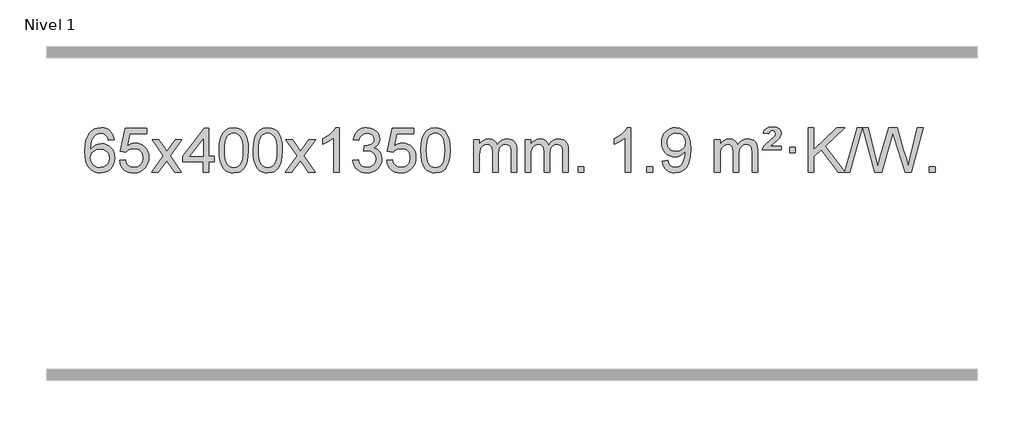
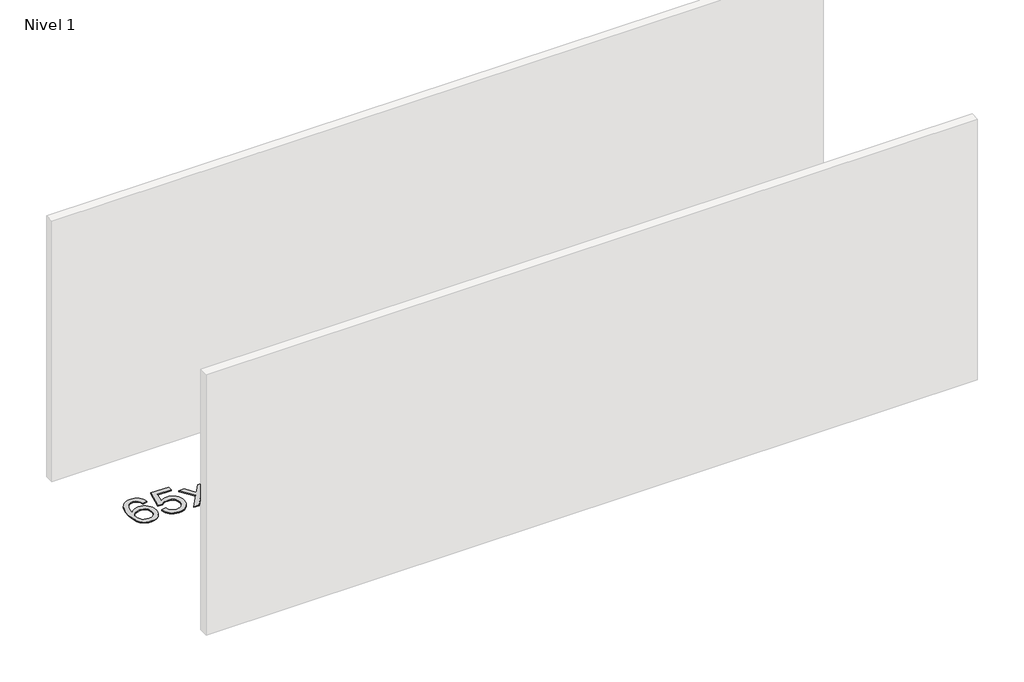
# One storey, part 2 of 10: 1 proxy.
"""IFC4 building model written with IfcOpenShell, lengths in millimetres."""

from ifc_helpers import new_model, si_unit, origin, origin_with_axes, place, context, project, spatial, polyline, outline, extrude, element, save

model = new_model("IFC4")

# Units and contexts
model_context = context("Model", 3, world=origin())
ifc_project = project(units=[si_unit("LENGTHUNIT", "METRE", prefix="MILLI")], contexts=[model_context])

# Site, building, storey
site = spatial("IfcSite", under=ifc_project)
building = spatial("IfcBuilding", under=site)
storey = spatial("IfcBuildingStorey", under=building, Name="Nivel 1", Elevation=0.0)

# Proxy
placement = place(None, origin())
element("IfcBuildingElementProxy", 1, Name="Texto de modelo 1", ObjectType="Texto de modelo 1", at=placement, inside=storey, context=model_context, shape_type="SweptSolid", body=[
    extrude(outline(polyline([(-24968.7310862, 8918.5483619), (-25018.9592412, 8912.2698426), (-25027.0526451, 8937.1631909), (-25037.9910031, 8954.1593391), (-25060.7751614, 8969.8311121), (-25088.3172601, 8975.0550364), (-25111.665504, 8972.0138786), (-25133.6403219, 8962.8904051), (-25152.5126682, 8943.6747022), (-25167.9269238, 8917.2239868), (-25178.3379843, 8879.8103879), (-25182.2007452, 8827.7060346), (-25162.0530746, 8851.2136941), (-25137.907753, 8867.7806466), (-25111.113681, 8877.6030959), (-25083.0197593, 8880.8772456), (-25058.8867005, 8878.6392968), (-25036.617577, 8871.9254504), (-25016.212389, 8860.7357064), (-24997.6711365, 8845.0700648), (-24982.2630122, 8825.8604933), (-24971.2572092, 8804.0389596), (-24964.6537274, 8779.6054637), (-24962.4525668, 8752.5600057), (-24966.5973706, 8716.5934093), (-24979.031782, 8683.2510378), (-24998.7257315, 8654.9731751), (-25024.6491494, 8634.2001051), (-25055.6248134, 8621.4345999), (-25090.4755011, 8617.1794315), (-25120.4180298, 8619.9998601), (-25147.4604222, 8628.461146), (-25171.6026781, 8642.5632892), (-25192.8447976, 8662.3062896), (-25210.1628426, 8688.5240131), (-25222.5328746, 8722.0503256), (-25229.9548939, 8762.8852271), (-25232.4289003, 8811.0287175), (-25229.6820481, 8865.0031376), (-25221.4414914, 8911.0680947), (-25207.7072302, 8949.223589), (-25188.4792646, 8979.4696204), (-25167.6387496, 8999.5130577), (-25143.4750339, 9013.8297987), (-25115.9881175, 9022.4198433), (-25085.1780004, 9025.2831915), (-25062.0443542, 9023.5112265), (-25041.1057374, 9018.1953317), (-25022.3621497, 9009.335507), (-25005.8135913, 8996.9317524), (-24991.9076519, 8981.4010008), (-24981.0919212, 8963.1601852), (-24973.3663993, 8942.2093056), (-24968.7310862, 8918.5483619)]), holes=[polyline([(-25182.2007452, 8753.3448206), (-25179.2944775, 8731.0879599), (-25170.5756742, 8709.8366434), (-25157.0376168, 8691.5651709), (-25139.6735866, 8678.2478427), (-25118.7165756, 8670.1176506), (-25094.3995757, 8667.4075866), (-25061.253408, 8673.0239184), (-25047.3382715, 8680.0443331), (-25035.1951, 8689.8729137), (-25025.3450595, 8702.1111215), (-25018.3093164, 8716.3604174), (-25012.6807219, 8750.892274), (-25018.23574, 8784.0384418), (-25025.1795126, 8797.6592727), (-25034.9007944, 8809.3119348), (-25047.0807541, 8818.6469405), (-25061.4005608, 8825.3148016), (-25096.4597149, 8830.6490906), (-25129.5568317, 8825.3148016), (-25157.2338205, 8809.3119348), (-25168.1568501, 8797.8125568), (-25175.9590141, 8784.6515784), (-25180.6403124, 8769.8289997), (-25182.2007452, 8753.3448206)])]), origin_with_axes(), (0.0, 0.0, 1.0), 10.0),
    extrude(outline(polyline([(-24918.5029311, 8730.1927804), (-24868.274776, 8736.4712998), (-24859.0532007, 8706.3172389), (-24842.9644948, 8684.7225658), (-24820.0822347, 8671.7363314), (-24790.4799968, 8667.4075866), (-24771.350133, 8668.9128371), (-24754.4766122, 8673.4285886), (-24739.8594342, 8680.954841), (-24727.4985992, 8691.4915945), (-24717.6700186, 8704.5176828), (-24710.6496038, 8719.5119398), (-24705.033272, 8755.4049598), (-24710.2939846, 8789.2010524), (-24716.8698752, 8803.1192546), (-24726.0761222, 8815.050894), (-24737.9433822, 8824.6219572), (-24752.5023121, 8831.458431), (-24789.6951819, 8836.92761), (-24814.0612327, 8834.7448434), (-24833.7919703, 8828.1965439), (-24849.5495825, 8818.1656282), (-24861.9962566, 8805.535013), (-24912.2244117, 8811.8135324), (-24868.274776, 9019.0046721), (-24673.6406751, 9019.0046721), (-24673.6406751, 8968.776517), (-24827.6606038, 8968.776517), (-24849.1449123, 8858.1176129), (-24831.4191315, 8870.8218044), (-24813.264155, 8879.896227), (-24794.6799829, 8885.3408805), (-24775.6666151, 8887.155765), (-24751.2055281, 8884.9055535), (-24728.7371353, 8878.1549189), (-24708.2614365, 8866.9038612), (-24689.778432, 8851.1523804), (-24674.4776066, 8831.8631012), (-24663.5484457, 8809.9986479), (-24656.9909491, 8785.5590207), (-24654.805117, 8758.5442195), (-24656.7732856, 8732.5226997), (-24662.6777917, 8708.3160644), (-24672.518635, 8685.9243137), (-24686.2958157, 8665.3474474), (-24707.1669876, 8644.2739404), (-24731.5207757, 8629.2214355), (-24759.35718, 8620.1899325), (-24790.6762005, 8617.1794315), (-24816.5965528, 8619.1138777), (-24840.0091761, 8624.9172161), (-24860.9140704, 8634.5894469), (-24879.3112359, 8648.13057), (-24894.6181926, 8664.8661351), (-24906.2524607, 8684.1216919), (-24914.2140402, 8705.8972403), (-24918.5029311, 8730.1927804)])), origin_with_axes(), (0.0, 0.0, 1.0), 10.0),
    extrude(outline(polyline([(-24629.6910394, 8623.4579509), (-24522.3675987, 8771.7879713), (-24623.41252, 8918.5483619), (-24562.981771, 8918.5483619), (-24514.2251439, 8847.9150189), (-24491.4655111, 8814.5603846), (-24471.7470362, 8841.8327032), (-24416.2213804, 8918.5483619), (-24355.7906313, 8918.5483619), (-24461.9368496, 8771.7879713), (-24359.7147059, 8623.4579509), (-24420.145455, 8623.4579509), (-24481.6553246, 8712.6325465), (-24492.9370391, 8728.9174562), (-24569.2602903, 8623.4579509), (-24629.6910394, 8623.4579509)])), origin_with_axes(), (0.0, 0.0, 1.0), 10.0),
    extrude(outline(polyline([(-24165.080605, 8623.4579509), (-24165.080605, 8717.6357417), (-24347.1576671, 8717.6357417), (-24347.1576671, 8767.8638967), (-24152.5235662, 9019.0046721), (-24114.8524499, 9019.0046721), (-24114.8524499, 8767.8638967), (-24064.6242948, 8767.8638967), (-24064.6242948, 8717.6357417), (-24114.8524499, 8717.6357417), (-24114.8524499, 8623.4579509), (-24165.080605, 8623.4579509)]), holes=[polyline([(-24165.080605, 8767.8638967), (-24165.080605, 8923.0610478), (-24285.3534919, 8767.8638967), (-24165.080605, 8767.8638967)])]), origin_with_axes(), (0.0, 0.0, 1.0), 10.0),
    extrude(outline(polyline([(-24020.6746591, 8821.1332096), (-24016.9835765, 8885.4512451), (-24005.9103284, 8936.746258), (-23987.5652796, 8975.8030631), (-23975.7072166, 8991.0364434), (-23962.0587946, 9003.4064755), (-23946.5740283, 9012.9775387), (-23929.2069324, 9019.8140125), (-23888.8257521, 9025.2831915), (-23857.8746135, 9022.0458299), (-23830.1608366, 9012.3337453), (-23806.9842709, 8996.5270822), (-23789.6447662, 8975.0059855), (-23776.5481671, 8947.9543961), (-23766.1003185, 8915.5562551), (-23759.2577134, 8874.4147853), (-23756.976845, 8821.1332096), (-23760.6311395, 8757.1830561), (-23771.5940229, 8706.0106706), (-23789.8287072, 8666.9170772), (-23801.659179, 8651.6377117), (-23815.298404, 8639.2033003), (-23830.8015644, 8629.5678577), (-23848.2238425, 8622.6853987), (-23888.8257521, 8617.1794315), (-23916.4904781, 8619.5706645), (-23941.0159444, 8626.7443634), (-23962.4021511, 8638.7005282), (-23980.6490981, 8655.439159), (-23998.160281, 8685.6974531), (-24010.6682689, 8723.3992262), (-24018.1730616, 8768.5444784), (-24020.6746591, 8821.1332096)]), holes=[polyline([(-23970.4465041, 8821.2313115), (-23968.9749761, 8777.5667843), (-23964.5603921, 8742.2225217), (-23957.2027522, 8715.1985234), (-23946.9020564, 8696.4947897), (-23934.4431195, 8683.7691383), (-23920.6107564, 8674.6793873), (-23905.4049673, 8669.2255368), (-23888.8257521, 8667.4075866), (-23872.2465368, 8669.2316681), (-23857.0407477, 8674.7039128), (-23843.2083847, 8683.8243206), (-23830.7494478, 8696.5928915), (-23820.4487519, 8715.3272821), (-23813.091112, 8742.345149), (-23808.676528, 8777.6464921), (-23807.2050001, 8821.2313115), (-23808.6274771, 8863.740076), (-23812.8949083, 8898.462005), (-23820.0072935, 8925.3970984), (-23829.9646328, 8944.5453563), (-23842.2151033, 8957.8933413), (-23856.2068818, 8967.4276164), (-23871.9399685, 8973.1481814), (-23889.4143633, 8975.0550364), (-23905.9077394, 8973.375042), (-23920.8560111, 8968.3350586), (-23934.2591785, 8959.9350864), (-23946.1172414, 8948.1751253), (-23956.7612938, 8927.3284789), (-23964.3641884, 8899.2222945), (-23968.9259251, 8863.856572), (-23970.4465041, 8821.2313115)])]), origin_with_axes(), (0.0, 0.0, 1.0), 10.0),
    extrude(outline(polyline([(-23713.0272093, 8821.1332096), (-23709.3361266, 8885.4512451), (-23698.2628786, 8936.746258), (-23679.9178297, 8975.8030631), (-23668.0597668, 8991.0364434), (-23654.4113447, 9003.4064755), (-23638.9265784, 9012.9775387), (-23621.5594826, 9019.8140125), (-23581.1783022, 9025.2831915), (-23550.2271637, 9022.0458299), (-23522.5133867, 9012.3337453), (-23499.336821, 8996.5270822), (-23481.9973163, 8975.0059855), (-23468.9007173, 8947.9543961), (-23458.4528686, 8915.5562551), (-23451.6102635, 8874.4147853), (-23449.3293952, 8821.1332096), (-23452.9836896, 8757.1830561), (-23463.9465731, 8706.0106706), (-23482.1812573, 8666.9170772), (-23494.0117292, 8651.6377117), (-23507.6509541, 8639.2033003), (-23523.1541145, 8629.5678577), (-23540.5763927, 8622.6853987), (-23581.1783022, 8617.1794315), (-23608.8430283, 8619.5706645), (-23633.3684946, 8626.7443634), (-23654.7547013, 8638.7005282), (-23673.0016482, 8655.439159), (-23690.5128312, 8685.6974531), (-23703.020819, 8723.3992262), (-23710.5256117, 8768.5444784), (-23713.0272093, 8821.1332096)]), holes=[polyline([(-23662.7990542, 8821.2313115), (-23661.3275262, 8777.5667843), (-23656.9129423, 8742.2225217), (-23649.5553024, 8715.1985234), (-23639.2546065, 8696.4947897), (-23626.7956696, 8683.7691383), (-23612.9633066, 8674.6793873), (-23597.7575175, 8669.2255368), (-23581.1783022, 8667.4075866), (-23564.599087, 8669.2316681), (-23549.3932978, 8674.7039128), (-23535.5609348, 8683.8243206), (-23523.1019979, 8696.5928915), (-23512.8013021, 8715.3272821), (-23505.4436622, 8742.345149), (-23501.0290782, 8777.6464921), (-23499.5575502, 8821.2313115), (-23500.9800273, 8863.740076), (-23505.2474584, 8898.462005), (-23512.3598437, 8925.3970984), (-23522.317183, 8944.5453563), (-23534.5676534, 8957.8933413), (-23548.559432, 8967.4276164), (-23564.2925187, 8973.1481814), (-23581.7669134, 8975.0550364), (-23598.2602895, 8973.375042), (-23613.2085613, 8968.3350586), (-23626.6117286, 8959.9350864), (-23638.4697916, 8948.1751253), (-23649.113844, 8927.3284789), (-23656.7167386, 8899.2222945), (-23661.2784753, 8863.856572), (-23662.7990542, 8821.2313115)])]), origin_with_axes(), (0.0, 0.0, 1.0), 10.0),
    extrude(outline(polyline([(-23424.2153176, 8623.4579509), (-23316.8918769, 8771.7879713), (-23417.9367982, 8918.5483619), (-23357.5060492, 8918.5483619), (-23308.7494221, 8847.9150189), (-23285.9897893, 8814.5603846), (-23266.2713144, 8841.8327032), (-23210.7456586, 8918.5483619), (-23150.3149095, 8918.5483619), (-23256.4611278, 8771.7879713), (-23154.2389841, 8623.4579509), (-23214.6697332, 8623.4579509), (-23276.1796028, 8712.6325465), (-23287.4613173, 8728.9174562), (-23363.7845685, 8623.4579509), (-23424.2153176, 8623.4579509)])), origin_with_axes(), (0.0, 0.0, 1.0), 10.0),
    extrude(outline(polyline([(-22934.4908056, 8623.4579509), (-22984.7189607, 8623.4579509), (-22984.7189607, 8936.5991052), (-23005.6882344, 8919.6397452), (-23032.2983654, 8902.7049107), (-23085.1752709, 8877.3455785), (-23085.1752709, 8924.8268813), (-23045.7260583, 8946.2866644), (-23011.5498209, 8971.8176749), (-22984.6085961, 8998.9673661), (-22966.8644212, 9025.2831915), (-22934.4908056, 9025.2831915), (-22934.4908056, 8623.4579509)])), origin_with_axes(), (0.0, 0.0, 1.0), 10.0),
    extrude(outline(polyline([(-22815.1989373, 8730.1927804), (-22764.9707823, 8736.4712998), (-22753.7258559, 8704.9070246), (-22737.2570053, 8683.5943944), (-22714.7548899, 8671.4542885), (-22685.4101694, 8667.4075866), (-22650.9764147, 8672.9748674), (-22636.7025933, 8679.9339685), (-22624.3908092, 8689.67671), (-22607.394661, 8714.5945838), (-22601.7292783, 8744.8099584), (-22607.3456101, 8773.4924913), (-22624.1946054, 8796.7548961), (-22649.7010904, 8812.1691517), (-22681.2898911, 8817.3072369), (-22716.5084608, 8811.8135324), (-22710.9166544, 8862.0416875), (-22702.8723015, 8861.4530763), (-22672.7795543, 8865.0583199), (-22645.8751177, 8875.8740505), (-22634.8018696, 8884.0532935), (-22626.8924067, 8894.1700484), (-22622.146729, 8906.2243151), (-22620.5648364, 8920.2160937), (-22625.1510986, 8941.9088686), (-22638.9098853, 8959.5058907), (-22659.9036844, 8971.16775), (-22686.1949844, 8975.0550364), (-22712.5353352, 8971.1309618), (-22734.0686947, 8959.3587379), (-22749.7895186, 8939.7383649), (-22758.6922629, 8912.2698426), (-22808.920418, 8918.5483619), (-22802.966861, 8942.5281367), (-22794.1315618, 8963.6506946), (-22782.4145202, 8981.9160356), (-22767.8157364, 8997.3241599), (-22750.7950627, 9009.5562362), (-22731.8123518, 9018.2934336), (-22710.8676035, 9023.535752), (-22687.9608179, 9025.2831915), (-22656.38428, 9021.8373635), (-22627.3829161, 9011.4998794), (-22602.9310261, 8995.1904443), (-22585.0029102, 8973.8287631), (-22574.0032386, 8949.2174576), (-22570.3366814, 8923.1591496), (-22573.8192976, 8898.8789379), (-22584.2671462, 8876.8550692), (-22601.5330745, 8858.0930874), (-22625.4699297, 8843.5985368), (-22594.0282818, 8830.8943452), (-22570.7290888, 8809.2628839), (-22556.3081146, 8779.8813752), (-22551.5011232, 8743.9270416), (-22553.9046189, 8718.445082), (-22561.115106, 8694.9742107), (-22573.1325845, 8673.5144277), (-22589.9570544, 8654.0657329), (-22610.4542129, 8637.927976), (-22633.4897572, 8626.4010068), (-22659.0636872, 8619.4848253), (-22687.176003, 8617.1794315), (-22712.5843862, 8619.1476002), (-22735.7364264, 8625.0521062), (-22756.6321237, 8634.8929496), (-22775.2714781, 8648.6701303), (-22790.9003316, 8665.574308), (-22802.7645259, 8684.7961422), (-22810.8640612, 8706.335633), (-22815.1989373, 8730.1927804)])), origin_with_axes(), (0.0, 0.0, 1.0), 10.0),
    extrude(outline(polyline([(-22507.5514875, 8730.1927804), (-22457.3233324, 8736.4712998), (-22448.1017571, 8706.3172389), (-22432.0130512, 8684.7225658), (-22409.1307911, 8671.7363314), (-22379.5285532, 8667.4075866), (-22360.3986894, 8668.9128371), (-22343.5251686, 8673.4285886), (-22328.9079907, 8680.954841), (-22316.5471556, 8691.4915945), (-22306.718575, 8704.5176828), (-22299.6981602, 8719.5119398), (-22294.0818284, 8755.4049598), (-22299.342541, 8789.2010524), (-22305.9184316, 8803.1192546), (-22315.1246786, 8815.050894), (-22326.9919386, 8824.6219572), (-22341.5508686, 8831.458431), (-22378.7437383, 8836.92761), (-22403.1097891, 8834.7448434), (-22422.8405268, 8828.1965439), (-22438.5981389, 8818.1656282), (-22451.044813, 8805.535013), (-22501.2729681, 8811.8135324), (-22457.3233324, 9019.0046721), (-22262.6892315, 9019.0046721), (-22262.6892315, 8968.776517), (-22416.7091602, 8968.776517), (-22438.1934687, 8858.1176129), (-22420.4676879, 8870.8218044), (-22402.3127114, 8879.896227), (-22383.7285393, 8885.3408805), (-22364.7151715, 8887.155765), (-22340.2540845, 8884.9055535), (-22317.7856917, 8878.1549189), (-22297.3099929, 8866.9038612), (-22278.8269884, 8851.1523804), (-22263.5261631, 8831.8631012), (-22252.5970021, 8809.9986479), (-22246.0395056, 8785.5590207), (-22243.8536734, 8758.5442195), (-22245.821842, 8732.5226997), (-22251.7263481, 8708.3160644), (-22261.5671914, 8685.9243137), (-22275.3443722, 8665.3474474), (-22296.215544, 8644.2739404), (-22320.5693321, 8629.2214355), (-22348.4057364, 8620.1899325), (-22379.7247569, 8617.1794315), (-22405.6451092, 8619.1138777), (-22429.0577325, 8624.9172161), (-22449.9626268, 8634.5894469), (-22468.3597923, 8648.13057), (-22483.666749, 8664.8661351), (-22495.3010171, 8684.1216919), (-22503.2625966, 8705.8972403), (-22507.5514875, 8730.1927804)])), origin_with_axes(), (0.0, 0.0, 1.0), 10.0),
    extrude(outline(polyline([(-22199.9040377, 8821.1332096), (-22196.212955, 8885.4512451), (-22185.1397069, 8936.746258), (-22166.7946581, 8975.8030631), (-22154.9365951, 8991.0364434), (-22141.2881731, 9003.4064755), (-22125.8034068, 9012.9775387), (-22108.4363109, 9019.8140125), (-22068.0551306, 9025.2831915), (-22037.1039921, 9022.0458299), (-22009.3902151, 9012.3337453), (-21986.2136494, 8996.5270822), (-21968.8741447, 8975.0059855), (-21955.7775457, 8947.9543961), (-21945.329697, 8915.5562551), (-21938.4870919, 8874.4147853), (-21936.2062235, 8821.1332096), (-21939.860518, 8757.1830561), (-21950.8234015, 8706.0106706), (-21969.0580857, 8666.9170772), (-21980.8885575, 8651.6377117), (-21994.5277825, 8639.2033003), (-22010.0309429, 8629.5678577), (-22027.4532211, 8622.6853987), (-22068.0551306, 8617.1794315), (-22095.7198566, 8619.5706645), (-22120.245323, 8626.7443634), (-22141.6315296, 8638.7005282), (-22159.8784766, 8655.439159), (-22177.3896596, 8685.6974531), (-22189.8976474, 8723.3992262), (-22197.4024401, 8768.5444784), (-22199.9040377, 8821.1332096)]), holes=[polyline([(-22149.6758826, 8821.2313115), (-22148.2043546, 8777.5667843), (-22143.7897707, 8742.2225217), (-22136.4321308, 8715.1985234), (-22126.1314349, 8696.4947897), (-22113.672498, 8683.7691383), (-22099.840135, 8674.6793873), (-22084.6343459, 8669.2255368), (-22068.0551306, 8667.4075866), (-22051.4759154, 8669.2316681), (-22036.2701262, 8674.7039128), (-22022.4377632, 8683.8243206), (-22009.9788263, 8696.5928915), (-21999.6781304, 8715.3272821), (-21992.3204905, 8742.345149), (-21987.9059066, 8777.6464921), (-21986.4343786, 8821.2313115), (-21987.8568557, 8863.740076), (-21992.1242868, 8898.462005), (-21999.236672, 8925.3970984), (-22009.1940114, 8944.5453563), (-22021.4444818, 8957.8933413), (-22035.4362604, 8967.4276164), (-22051.169347, 8973.1481814), (-22068.6437418, 8975.0550364), (-22085.1371179, 8973.375042), (-22100.0853897, 8968.3350586), (-22113.488557, 8959.9350864), (-22125.34662, 8948.1751253), (-22135.9906724, 8927.3284789), (-22143.5935669, 8899.2222945), (-22148.1553037, 8863.856572), (-22149.6758826, 8821.2313115)])]), origin_with_axes(), (0.0, 0.0, 1.0), 10.0),
    extrude(outline(polyline([(-21722.7365645, 8623.4579509), (-21722.7365645, 8918.5483619), (-21672.5084094, 8918.5483619), (-21672.5084094, 8869.9879386), (-21657.4007221, 8892.2938502), (-21637.9765528, 8909.768245), (-21614.8980889, 8921.0622222), (-21588.8275182, 8924.8268813), (-21560.8930121, 8920.9886459), (-21538.5012613, 8909.4739394), (-21521.7748932, 8891.0430514), (-21510.8365352, 8866.4562714), (-21492.5282746, 8891.9934133), (-21471.64484, 8910.2342289), (-21448.1862315, 8921.1787182), (-21422.1524489, 8924.8268813), (-21402.0446322, 8923.3093681), (-21384.3954935, 8918.7568284), (-21369.2050328, 8911.1692623), (-21356.4732501, 8900.5466697), (-21346.4086118, 8886.7664232), (-21339.2195845, 8869.7058957), (-21334.9061681, 8849.3650871), (-21333.4683626, 8825.7439973), (-21333.4683626, 8623.4579509), (-21383.6965177, 8623.4579509), (-21383.6965177, 8804.1615869), (-21384.8614774, 8829.2143508), (-21388.3563563, 8846.1001344), (-21394.9046558, 8857.6638917), (-21405.2298772, 8866.750577), (-21418.5104172, 8872.636689), (-21433.9246728, 8874.5987263), (-21461.1356777, 8869.5710057), (-21483.318962, 8854.4878439), (-21491.924335, 8842.9179551), (-21498.07103, 8828.3191713), (-21502.988386, 8790.0349183), (-21502.988386, 8623.4579509), (-21553.2165411, 8623.4579509), (-21553.2165411, 8809.7533932), (-21556.1228088, 8838.1538833), (-21564.8416121, 8858.4119185), (-21580.1822913, 8870.5520243), (-21602.9541868, 8874.5987263), (-21622.3047798, 8871.900925), (-21640.1347938, 8863.8075211), (-21654.8500736, 8850.5147183), (-21664.8564639, 8832.2187204), (-21670.595423, 8806.8348627), (-21672.5084094, 8772.2784807), (-21672.5084094, 8623.4579509), (-21722.7365645, 8623.4579509)])), origin_with_axes(), (0.0, 0.0, 1.0), 10.0),
    extrude(outline(polyline([(-21258.12613, 8623.4579509), (-21258.12613, 8918.5483619), (-21207.8979749, 8918.5483619), (-21207.8979749, 8869.9879386), (-21192.7902877, 8892.2938502), (-21173.3661183, 8909.768245), (-21150.2876545, 8921.0622222), (-21124.2170838, 8924.8268813), (-21096.2825776, 8920.9886459), (-21073.8908268, 8909.4739394), (-21057.1644588, 8891.0430514), (-21046.2261008, 8866.4562714), (-21027.9178402, 8891.9934133), (-21007.0344056, 8910.2342289), (-20983.575797, 8921.1787182), (-20957.5420145, 8924.8268813), (-20937.4341978, 8923.3093681), (-20919.7850591, 8918.7568284), (-20904.5945983, 8911.1692623), (-20891.8628156, 8900.5466697), (-20881.7981774, 8886.7664232), (-20874.6091501, 8869.7058957), (-20870.2957337, 8849.3650871), (-20868.8579282, 8825.7439973), (-20868.8579282, 8623.4579509), (-20919.0860833, 8623.4579509), (-20919.0860833, 8804.1615869), (-20920.2510429, 8829.2143508), (-20923.7459219, 8846.1001344), (-20930.2942214, 8857.6638917), (-20940.6194427, 8866.750577), (-20953.8999827, 8872.636689), (-20969.3142383, 8874.5987263), (-20996.5252433, 8869.5710057), (-21018.7085276, 8854.4878439), (-21027.3139006, 8842.9179551), (-21033.4605956, 8828.3191713), (-21038.3779516, 8790.0349183), (-21038.3779516, 8623.4579509), (-21088.6061066, 8623.4579509), (-21088.6061066, 8809.7533932), (-21091.5123744, 8838.1538833), (-21100.2311777, 8858.4119185), (-21115.5718569, 8870.5520243), (-21138.3437524, 8874.5987263), (-21157.6943453, 8871.900925), (-21175.5243594, 8863.8075211), (-21190.2396392, 8850.5147183), (-21200.2460294, 8832.2187204), (-21205.9849886, 8806.8348627), (-21207.8979749, 8772.2784807), (-21207.8979749, 8623.4579509), (-21258.12613, 8623.4579509)])), origin_with_axes(), (0.0, 0.0, 1.0), 10.0),
    extrude(outline(polyline([(-20780.9586568, 8623.4579509), (-20780.9586568, 8673.686106), (-20730.7305017, 8673.686106), (-20730.7305017, 8623.4579509), (-20780.9586568, 8623.4579509)])), origin_with_axes(), (0.0, 0.0, 1.0), 10.0),
    extrude(outline(polyline([(-20303.7911836, 8623.4579509), (-20354.0193387, 8623.4579509), (-20354.0193387, 8936.5991052), (-20374.9886124, 8919.6397452), (-20401.5987434, 8902.7049107), (-20454.4756488, 8877.3455785), (-20454.4756488, 8924.8268813), (-20415.0264362, 8946.2866644), (-20380.8501989, 8971.8176749), (-20353.9089741, 8998.9673661), (-20336.1647992, 9025.2831915), (-20303.7911836, 9025.2831915), (-20303.7911836, 8623.4579509)])), origin_with_axes(), (0.0, 0.0, 1.0), 10.0),
    extrude(outline(polyline([(-20159.3852378, 8623.4579509), (-20159.3852378, 8673.686106), (-20109.1570827, 8673.686106), (-20109.1570827, 8623.4579509), (-20159.3852378, 8623.4579509)])), origin_with_axes(), (0.0, 0.0, 1.0), 10.0),
    extrude(outline(polyline([(-20021.2578113, 8723.914261), (-19971.0296562, 8730.1927804), (-19962.445743, 8701.6819258), (-19948.4662272, 8682.2700192), (-19929.4344653, 8671.1231947), (-19905.6938139, 8667.4075866), (-19884.3934464, 8669.7988195), (-19865.0305907, 8676.9725185), (-19848.9418848, 8688.1438684), (-19837.4639665, 8702.5280544), (-19821.0319041, 8746.1833845), (-19815.5872505, 8774.5838745), (-19813.772366, 8804.4558925), (-19814.0666716, 8814.2660791), (-19831.46749, 8793.0270252), (-19854.2393855, 8776.2025553), (-19880.7391519, 8765.2396718), (-19909.3235829, 8761.5853773), (-19933.183796, 8763.8171948), (-19955.1248913, 8770.5126471), (-19975.1468689, 8781.6717343), (-19993.2497287, 8797.2944563), (-20008.2501171, 8816.5653415), (-20018.9646802, 8838.6689181), (-20025.3934181, 8863.605186), (-20027.5363307, 8891.3741452), (-20025.2891848, 8920.0689409), (-20018.5477473, 8945.8206805), (-20007.312018, 8968.6293642), (-19991.581997, 8988.494992), (-19972.4674617, 9004.5898293), (-19951.0781894, 9016.0861416), (-19927.41418, 9022.983929), (-19901.4754337, 9025.2831915), (-19864.0127838, 9020.0347417), (-19829.9101229, 9004.2893923), (-19801.3870055, 8978.8319582), (-19780.6629865, 8944.4472544), (-19768.044634, 8896.9169006), (-19763.8385165, 8832.0225167), (-19768.0323713, 8763.2163209), (-19780.6139355, 8710.0328471), (-19801.4728447, 8670.0685997), (-19814.9649168, 8654.142375), (-19830.4987341, 8640.9200829), (-19847.7615967, 8630.5335479), (-19866.440805, 8623.1145944), (-19908.0482587, 8617.1794315), (-19930.6055563, 8618.9299367), (-19950.9923502, 8624.1814521), (-19969.2086404, 8632.9339779), (-19985.2544267, 8645.1875141), (-19998.7250391, 8660.6109667), (-20009.2158073, 8678.8732421), (-20016.7267314, 8699.9743402), (-20021.2578113, 8723.914261)]), holes=[polyline([(-19814.0666716, 8892.5513676), (-19819.4867997, 8926.5927149), (-19826.2619598, 8940.6703326), (-19835.7471839, 8952.785913), (-19847.4764882, 8962.5286545), (-19860.9838887, 8969.4877555), (-19893.3329788, 8975.0550364), (-19910.9422637, 8973.5559173), (-19926.8838168, 8969.0585599), (-19941.1576382, 8961.5629642), (-19953.7637279, 8951.0691303), (-19964.0644238, 8938.1901948), (-19971.4220637, 8923.5392944), (-19975.8366476, 8907.1164289), (-19977.3081756, 8888.9215986), (-19971.7408948, 8857.8846209), (-19964.7817937, 8844.7665621), (-19955.0390522, 8833.24879), (-19942.9173404, 8823.8708648), (-19928.8213287, 8817.1723468), (-19894.706405, 8811.8135324), (-19862.6148323, 8817.1723468), (-19836.7772535, 8833.24879), (-19826.8413739, 8844.9934227), (-19819.7443171, 8858.7920632), (-19814.0666716, 8892.5513676)])]), origin_with_axes(), (0.0, 0.0, 1.0), 10.0),
    extrude(outline(polyline([(-19550.3688575, 8623.4579509), (-19550.3688575, 8918.5483619), (-19500.1407024, 8918.5483619), (-19500.1407024, 8869.9879386), (-19485.0330151, 8892.2938502), (-19465.6088458, 8909.768245), (-19442.530382, 8921.0622222), (-19416.4598112, 8924.8268813), (-19388.5253051, 8920.9886459), (-19366.1335543, 8909.4739394), (-19349.4071862, 8891.0430514), (-19338.4688283, 8866.4562714), (-19320.1605676, 8891.9934133), (-19299.277133, 8910.2342289), (-19275.8185245, 8921.1787182), (-19249.784742, 8924.8268813), (-19229.6769252, 8923.3093681), (-19212.0277865, 8918.7568284), (-19196.8373258, 8911.1692623), (-19184.1055431, 8900.5466697), (-19174.0409048, 8886.7664232), (-19166.8518775, 8869.7058957), (-19162.5384611, 8849.3650871), (-19161.1006556, 8825.7439973), (-19161.1006556, 8623.4579509), (-19211.3288107, 8623.4579509), (-19211.3288107, 8804.1615869), (-19212.4937704, 8829.2143508), (-19215.9886493, 8846.1001344), (-19222.5369488, 8857.6638917), (-19232.8621702, 8866.750577), (-19246.1427102, 8872.636689), (-19261.5569658, 8874.5987263), (-19288.7679707, 8869.5710057), (-19310.951255, 8854.4878439), (-19319.556628, 8842.9179551), (-19325.703323, 8828.3191713), (-19330.620679, 8790.0349183), (-19330.620679, 8623.4579509), (-19380.8488341, 8623.4579509), (-19380.8488341, 8809.7533932), (-19383.7551019, 8838.1538833), (-19392.4739051, 8858.4119185), (-19407.8145843, 8870.5520243), (-19430.5864798, 8874.5987263), (-19449.9370728, 8871.900925), (-19467.7670868, 8863.8075211), (-19482.4823666, 8850.5147183), (-19492.4887569, 8832.2187204), (-19498.227716, 8806.8348627), (-19500.1407024, 8772.2784807), (-19500.1407024, 8623.4579509), (-19550.3688575, 8623.4579509)])), origin_with_axes(), (0.0, 0.0, 1.0), 10.0),
    extrude(outline(polyline([(-19117.15102, 8824.3705712), (-19113.3250472, 8840.189497), (-19104.9863887, 8856.0574737), (-19083.4775547, 8881.1960767), (-19051.520872, 8908.9343791), (-19007.3750326, 8946.3111899), (-19000.2381219, 8957.838159), (-18997.8591517, 8969.6594338), (-18999.7476126, 8981.7504887), (-19005.4129953, 8991.5361498), (-19014.7817234, 8998.0108729), (-19027.7802206, 9000.1691139), (-19040.214632, 8998.5504332), (-19049.0683254, 8993.6943908), (-19055.4939976, 8984.2275608), (-19060.6443455, 8968.776517), (-19110.8725006, 8975.0550364), (-19100.0322444, 9000.2672158), (-19083.4039783, 9017.8274497), (-19059.6388014, 9028.1281456), (-19027.3878131, 9031.5617109), (-18991.6051577, 9027.4291698), (-18966.8589622, 9015.0315466), (-18952.437988, 8996.6987605), (-18947.6309966, 8974.7607308), (-18951.7267495, 8951.8539452), (-18964.0140081, 8930.2224839), (-18984.5418234, 8910.4059071), (-19021.0111919, 8882.3487736), (-19046.6157787, 8855.7631681), (-18947.6309966, 8855.7631681), (-18947.6309966, 8824.3705712), (-19117.15102, 8824.3705712)])), origin_with_axes(), (0.0, 0.0, 1.0), 10.0),
    extrude(outline(polyline([(-18872.288764, 8799.2564936), (-18872.288764, 8849.4846487), (-18822.0606089, 8849.4846487), (-18822.0606089, 8799.2564936), (-18872.288764, 8799.2564936)])), origin_with_axes(), (0.0, 0.0, 1.0), 10.0),
    extrude(outline(polyline([(-18431.4189809, 8623.4579509), (-18584.8502984, 8826.1364048), (-18652.5405855, 8761.5853773), (-18652.5405855, 8623.4579509), (-18702.7687406, 8623.4579509), (-18702.7687406, 9025.2831915), (-18652.5405855, 9025.2831915), (-18652.5405855, 8828.5889514), (-18446.5266682, 9025.2831915), (-18376.2857326, 9025.2831915), (-18549.2393213, 8860.0796502), (-18374.5857114, 8629.5024707), (-18263.2723837, 9025.2831915), (-18217.9493219, 9025.2831915), (-18330.9626708, 8623.4579509), (-18370.0072132, 8623.4579509), (-18376.2857326, 8623.4579509), (-18431.4189809, 8623.4579509)])), origin_with_axes(), (0.0, 0.0, 1.0), 10.0),
    extrude(outline(polyline([(-18103.464445, 8623.4579509), (-18213.0442286, 9025.2831915), (-18161.2464437, 9025.2831915), (-18097.6764349, 8761.1929699), (-18078.0560618, 8679.6703197), (-18057.0622627, 8751.7751908), (-17977.403548, 9025.2831915), (-17902.7480284, 9025.2831915), (-17844.8679278, 8827.0193215), (-17820.0726814, 8753.4429225), (-17801.8012089, 8679.6703197), (-17782.7694471, 8758.8385251), (-17718.6108271, 9025.2831915), (-17666.8130422, 9025.2831915), (-17776.4909277, 8623.4579509), (-17830.152648, 8623.4579509), (-17926.4886798, 8933.4598455), (-17939.9286354, 8976.7227681), (-17955.0363227, 8924.6306776), (-18042.8374922, 8623.4579509), (-18103.464445, 8623.4579509)])), origin_with_axes(), (0.0, 0.0, 1.0), 10.0),
    extrude(outline(polyline([(-17610.3063677, 8623.4579509), (-17610.3063677, 8673.686106), (-17560.0782126, 8673.686106), (-17560.0782126, 8623.4579509), (-17610.3063677, 8623.4579509)])), origin_with_axes(), (0.0, 0.0, 1.0), 10.0),
])

save(model, "model.ifc")
